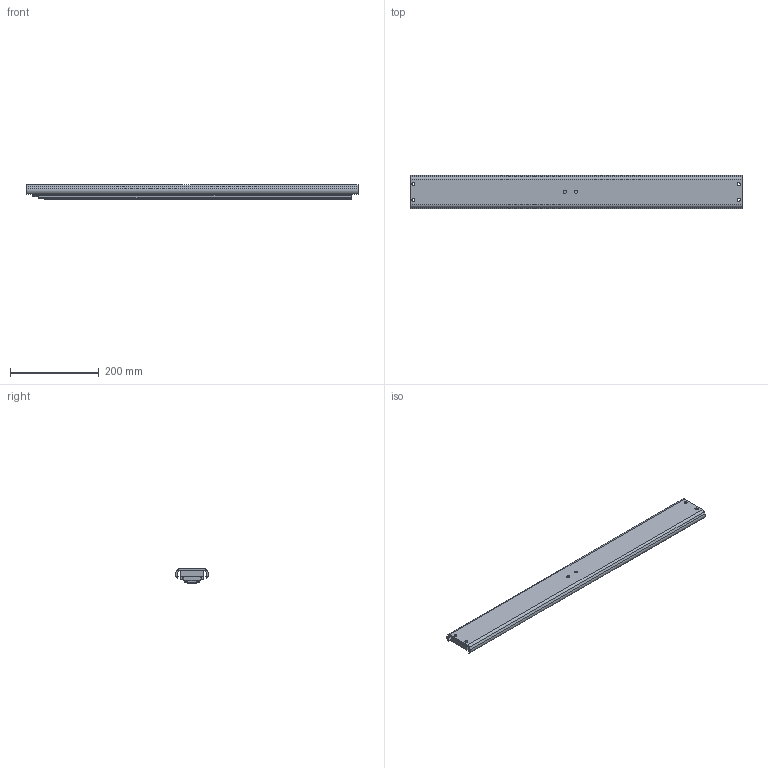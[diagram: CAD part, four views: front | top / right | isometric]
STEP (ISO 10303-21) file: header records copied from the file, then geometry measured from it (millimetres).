
FILE_DESCRIPTION(/* description */ ('TR7532 750 / 1125 (32)'),/* implementation_level */ '2;1');
FILE_NAME(/* name */ 'C:\Workspace\Documents\Projects\Custom Eng\slides\138\13875-Sxx\E000041185.stp',/* time_stamp */ '2016-07-22T13:20:36+02:00',/* author */ ('stagenbd'),/* organization */ (''),/* preprocessor_version */ 'ST-DEVELOPER v15.6',/* originating_system */ 'Autodesk Inventor 2015',/* authorisation */ '');
FILE_SCHEMA (('AUTOMOTIVE_DESIGN { 1 0 10303 214 3 1 1 }'));
Length unit declared in the file: millimetre
Products named in the file (1): E000041185
Bounding box: 750 x 74.93 x 32 mm (x, y, z)
Volume: 870208.7 mm3; surface area: 414615.6 mm2
Topology: 7 solids, 7 shells, 204 faces, 532 edges, 326 vertices
Faces by surface type: cylinder 114, plane 68, sphere 16, cone 6
Full cylindrical faces by diameter (mm): 5 x6, 6.4 x2, 6.6 x2, 7 x4
Entity records: 6150 total; most frequent: DIRECTION 1140, CARTESIAN_POINT 1027, ORIENTED_EDGE 992, EDGE_CURVE 496, AXIS2_PLACEMENT_3D 439, VERTEX_POINT 326, LINE 262, VECTOR 262
